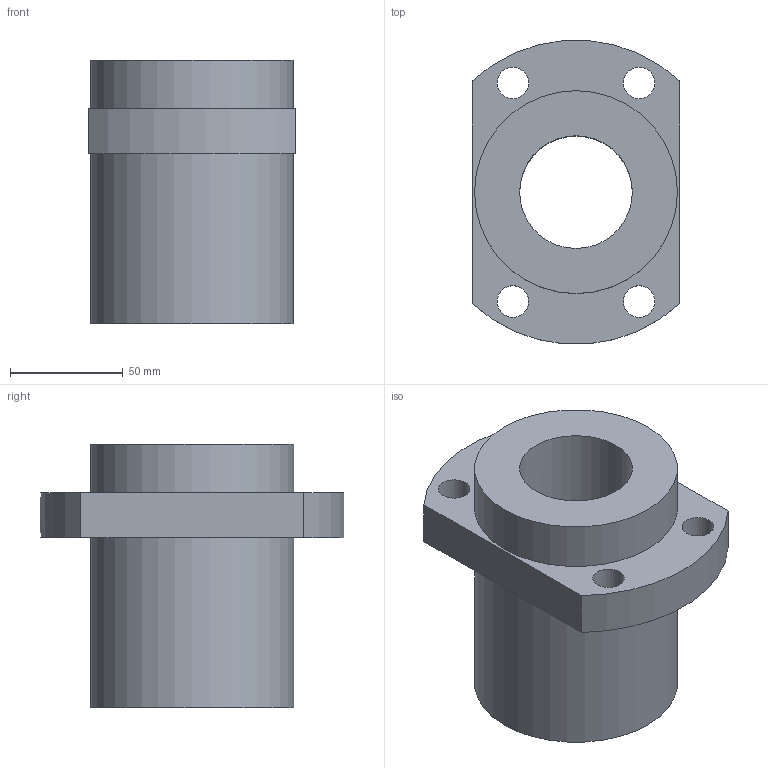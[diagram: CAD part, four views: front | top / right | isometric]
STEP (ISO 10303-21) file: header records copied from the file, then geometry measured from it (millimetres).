
FILE_DESCRIPTION(('FreeCAD Model'),'2;1');
FILE_NAME('Open CASCADE Shape Model','2025-04-30T10:02:02',('Author'),( ''),'Open CASCADE STEP processor 7.5','FreeCAD','Unknown');
FILE_SCHEMA(('AUTOMOTIVE_DESIGN { 1 0 10303 214 1 1 1 1 }'));
Length unit declared in the file: millimetre
Products named in the file (1): Product
Bounding box: 92 x 134.77 x 117 mm (x, y, z)
Volume: 601751 mm3; surface area: 75548.4 mm2
Topology: 1 solids, 1 shells, 16 faces, 41 edges, 29 vertices
Faces by surface type: cylinder 10, plane 6
Full cylindrical faces by diameter (mm): 5 x1, 14 x4, 50 x1, 90 x2
Entity records: 1611 total; most frequent: CARTESIAN_POINT 756, DIRECTION 152, ORIENTED_EDGE 82, PCURVE 82, DEFINITIONAL_REPRESENTATION 82, LINE 68, VECTOR 68, EDGE_CURVE 41
